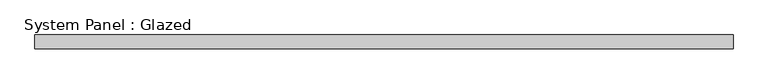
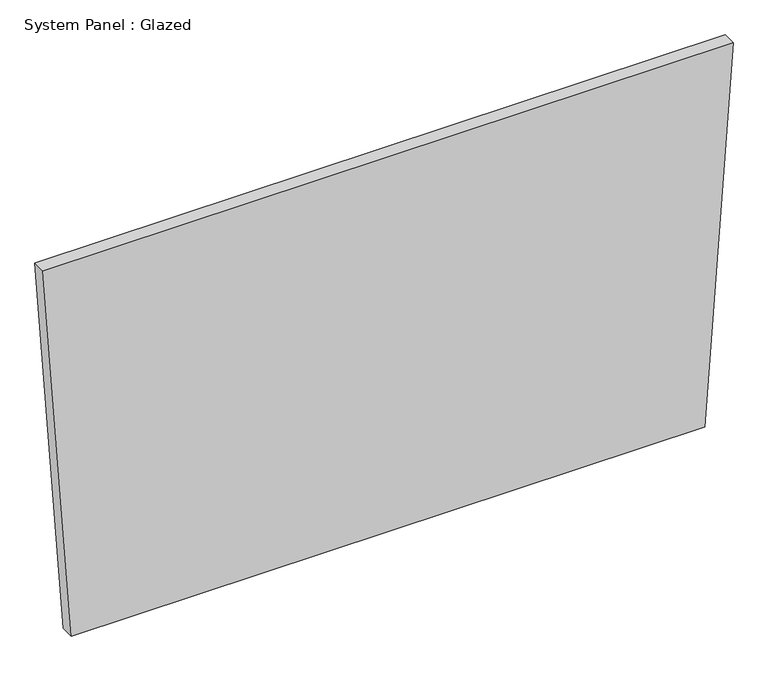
"""IFC4 building model written with IfcOpenShell, lengths in millimetres: plate geometry, System Panel : Glazed."""

from ifc_helpers import new_model, si_unit, frame, origin, place, context, project, spatial, polyline, outline, extrude, source, transform, mapped, element, save


def system_panel_glazed_2e27290a(model_context):
    return source(origin(), model_context, "Body", "SweptSolid", [
        extrude(outline(polyline([(0.0076164, -577.7477911), (0.0, 577.7478405), (723.0350274, 629.7560988), (723.0433294, -629.7560988), (0.0076164, -577.7477911)])), frame((0.0, 19.05, 0.0), z_axis=(0.0, 1.0, 0.0), x_axis=(0.0, 0.0, 1.0)), (0.0, 0.0, 1.0), 25.4),
    ])


if __name__ == "__main__":
    model = new_model("IFC4")
    model_context = context("Model", 3, world=origin())
    ifc_project = project(units=[si_unit("LENGTHUNIT", "METRE", prefix="MILLI")], contexts=[model_context])
    site = spatial("IfcSite", under=ifc_project)
    building = spatial("IfcBuilding", under=site)
    placement = place(None, origin())
    system_panel_glazed_shape = system_panel_glazed_2e27290a(model_context)
    element("IfcPlate", 1, ObjectType="System Panel : Glazed", at=placement, inside=building, context=model_context, shape_type="MappedRepresentation", body=[
        mapped(system_panel_glazed_shape, transform((0.0, 0.0, 0.0), x_axis=(1.0, 0.0, 0.0), y_axis=(0.0, 1.0, 0.0), z_axis=(0.0, 0.0, 1.0))),
    ])
    save(model, "model.ifc")
